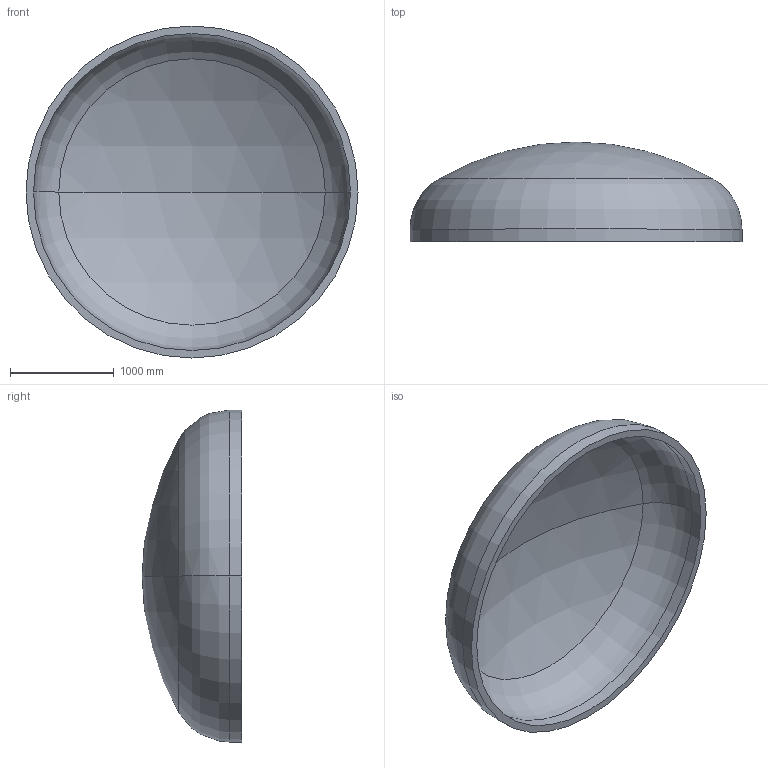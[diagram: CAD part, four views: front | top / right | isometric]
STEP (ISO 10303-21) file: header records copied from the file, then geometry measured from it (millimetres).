
FILE_DESCRIPTION (( 'STEP AP203' ), '1' );
FILE_NAME ('DIN 28013 Korbbogenform_-_Boden DIN 28013 - 3200 x 120 - I - s=72.step', '2016-07-01T18:49:33', ( '' ), ( '' ), 'SwSTEP 2.0', 'SolidWorks 2013', '' );
FILE_SCHEMA (( 'CONFIG_CONTROL_DESIGN' ));
Length unit declared in the file: millimetre
Products named in the file (1): DIN 28013 Korbbogenform_-_Boden DIN 28013 - 3200 x 120 - I - s=72
Bounding box: 3200 x 961.06 x 3200 mm (x, y, z)
Volume: 862645152.6 mm3; surface area: 24680751.5 mm2
Topology: 1 solids, 1 shells, 13 faces, 24 edges, 14 vertices
Faces by surface type: torus 4, cylinder 4, sphere 4, plane 1
Entity records: 407 total; most frequent: DIRECTION 72, CARTESIAN_POINT 52, ORIENTED_EDGE 48, AXIS2_PLACEMENT_3D 34, EDGE_CURVE 24, CIRCLE 20, VERTEX_POINT 14, EDGE_LOOP 14
